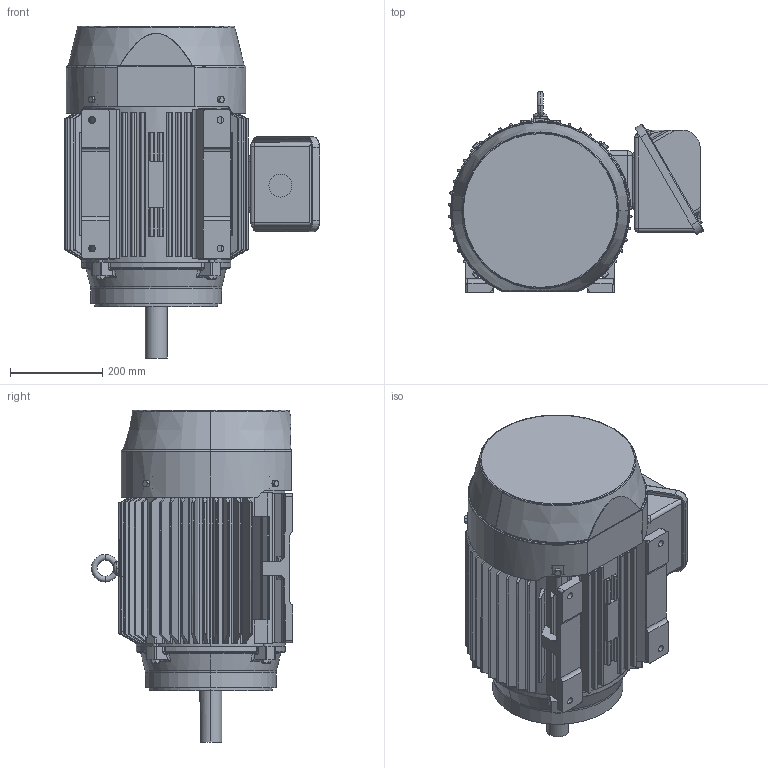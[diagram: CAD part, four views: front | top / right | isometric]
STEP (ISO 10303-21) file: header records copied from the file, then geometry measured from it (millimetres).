
FILE_DESCRIPTION (( 'STEP AP203' ), '1' );
FILE_NAME ('286TC.STEP', '2017-10-17T07:01:09', ( 'oem' ), ( 'micro-oem' ), 'SwSTEP 2.0', 'SolidWorks 2012', '' );
FILE_SCHEMA (( 'CONFIG_CONTROL_DESIGN' ));
Products named in the file (13): 286TC; 432-07494_凸緣; 433-25864_主軸; 434-24801-10_外殼; 7058570012(M16xP2.0)_環首螺栓; 六角螺栓706253395512(M12x40L); 280T-320T 接線箱組合; 六角螺栓M8x25L; 433-31225-01_280T-320T用接線箱蓋; 433-31226-02_280T-320T用接線箱座; 六角螺栓7063506912(M10x60L); 43320001_扇蓋; 432-06974_後托架
Assembly tree (21 placements, depth 3):
  286TC
    432-06974_後托架
    43320001_扇蓋
    六角螺栓7063506912(M10x60L)  x4
    280T-320T 接線箱組合
      433-31226-02_280T-320T用接線箱座
      433-31225-01_280T-320T用接線箱蓋
      六角螺栓M8x25L  x4
    六角螺栓706253395512(M12x40L)  x4
    7058570012(M16xP2.0)_環首螺栓
    434-24801-10_外殼
    433-25864_主軸
    432-07494_凸緣
Bounding box: 554.77 x 437.38 x 721.6 mm (x, y, z)
Volume: 14443933.2 mm3; surface area: 3368902.5 mm2
Topology: 20 solids, 20 shells, 1587 faces, 4123 edges, 2607 vertices
Faces by surface type: cylinder 639, plane 543, bspline 154, cone 136, torus 91, sphere 24
Entity records: 61429 total; most frequent: CARTESIAN_POINT 25538, ORIENTED_EDGE 7546, DIRECTION 6747, EDGE_CURVE 3773, AXIS2_PLACEMENT_3D 2656, VERTEX_POINT 2409, EDGE_LOOP 1612, FACE_OUTER_BOUND 1452
